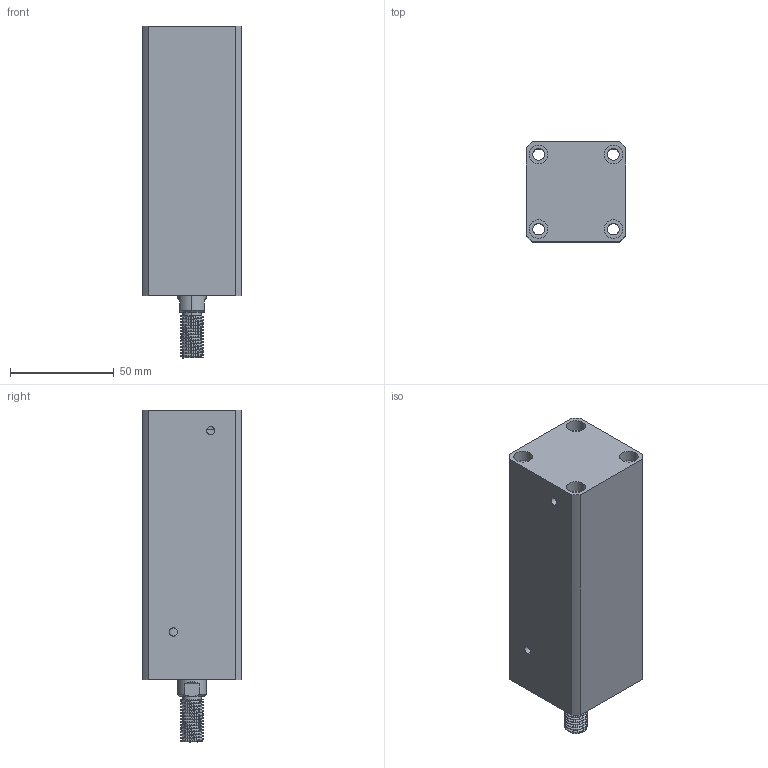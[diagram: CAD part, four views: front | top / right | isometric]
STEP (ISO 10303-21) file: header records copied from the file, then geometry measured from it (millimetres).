
FILE_DESCRIPTION (( 'STEP AP214' ), '1' );
FILE_NAME ('chtb-sdma25x85w_asm.STEP', '2018-05-22T07:42:14', ( 'Windows' ), ( 'Microsoft' ), 'SwSTEP 2.0', 'SolidWorks 2015', '' );
FILE_SCHEMA (( 'AUTOMOTIVE_DESIGN' ));
Length unit declared in the file: millimetre
Products named in the file (4): CHTB-SDMA25X85WHSG; CHTB-SDMA25X85NBT; CHTB-25QG; chtb-sdma25x85w_asm
Assembly tree (3 placements, depth 2):
  chtb-sdma25x85w_asm
    CHTB-25QG
    CHTB-SDMA25X85NBT
    CHTB-SDMA25X85WHSG
Bounding box: 48 x 48 x 160 mm (x, y, z)
Volume: 255274.7 mm3; surface area: 63245.2 mm2
Topology: 3 solids, 3 shells, 177 faces, 479 edges, 325 vertices
Faces by surface type: cylinder 117, plane 38, bspline 12, cone 10
Entity records: 10676 total; most frequent: CARTESIAN_POINT 6329, ORIENTED_EDGE 950, DIRECTION 772, EDGE_CURVE 475, VERTEX_POINT 325, AXIS2_PLACEMENT_3D 312, EDGE_LOOP 216, ADVANCED_FACE 177
